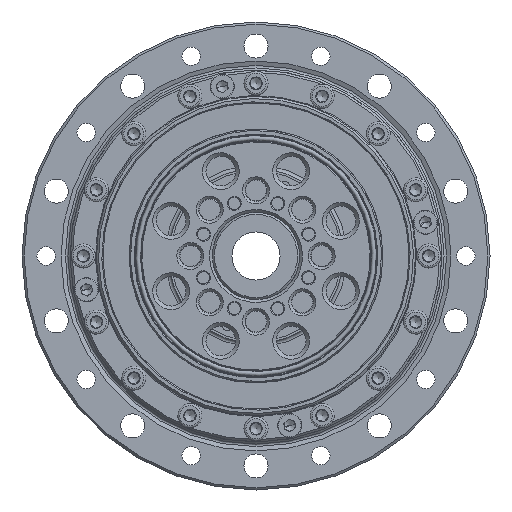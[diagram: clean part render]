
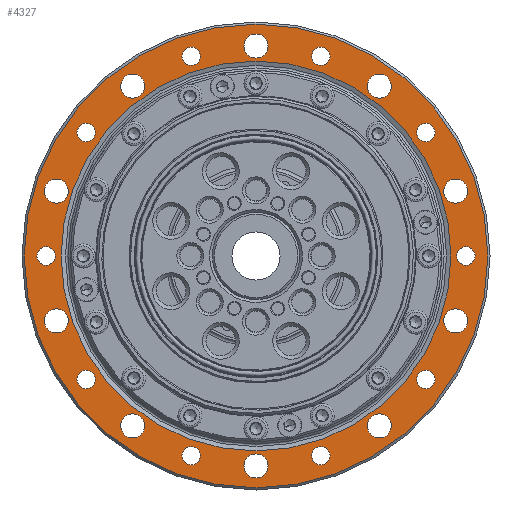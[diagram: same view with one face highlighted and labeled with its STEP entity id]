
A CAD part, left-side view. The second image highlights one B-rep face of the part: STEP entity #4327.
In plain terms, the highlighted planar face has unit normal (-1, 0, 0).
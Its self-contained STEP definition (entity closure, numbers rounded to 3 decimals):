
#3613=PLANE('',#21209);
#4327=ADVANCED_FACE('',(#6100,#6101,#6102,#6103,#6104,#6105,#6106,#6107,
#6108,#6109,#6110,#6111,#6112,#6113,#6114,#6115,#6116,#6117,#6118,#6119,
#6120,#6121),#3613,.T.);
#6100=FACE_BOUND('',#8202,.T.);
#6101=FACE_BOUND('',#8203,.T.);
#6102=FACE_BOUND('',#8204,.T.);
#6103=FACE_BOUND('',#8205,.T.);
#6104=FACE_BOUND('',#8206,.T.);
#6105=FACE_BOUND('',#8207,.T.);
#6106=FACE_BOUND('',#8208,.T.);
#6107=FACE_BOUND('',#8209,.T.);
#6108=FACE_BOUND('',#8210,.T.);
#6109=FACE_BOUND('',#8211,.T.);
#6110=FACE_BOUND('',#8212,.T.);
#6111=FACE_BOUND('',#8213,.T.);
#6112=FACE_BOUND('',#8214,.T.);
#6113=FACE_BOUND('',#8215,.T.);
#6114=FACE_BOUND('',#8216,.T.);
#6115=FACE_BOUND('',#8217,.T.);
#6116=FACE_BOUND('',#8218,.T.);
#6117=FACE_BOUND('',#8219,.T.);
#6118=FACE_BOUND('',#8220,.T.);
#6119=FACE_BOUND('',#8221,.T.);
#6120=FACE_BOUND('',#8222,.T.);
#6121=FACE_BOUND('',#8223,.T.);
#8202=EDGE_LOOP('',(#11566));
#8203=EDGE_LOOP('',(#11567));
#8204=EDGE_LOOP('',(#11568));
#8205=EDGE_LOOP('',(#11569));
#8206=EDGE_LOOP('',(#11570));
#8207=EDGE_LOOP('',(#11571));
#8208=EDGE_LOOP('',(#11572));
#8209=EDGE_LOOP('',(#11573));
#8210=EDGE_LOOP('',(#11574));
#8211=EDGE_LOOP('',(#11575));
#8212=EDGE_LOOP('',(#11576));
#8213=EDGE_LOOP('',(#11577));
#8214=EDGE_LOOP('',(#11578));
#8215=EDGE_LOOP('',(#11579));
#8216=EDGE_LOOP('',(#11580));
#8217=EDGE_LOOP('',(#11581));
#8218=EDGE_LOOP('',(#11582));
#8219=EDGE_LOOP('',(#11583));
#8220=EDGE_LOOP('',(#11584));
#8221=EDGE_LOOP('',(#11585));
#8222=EDGE_LOOP('',(#11586));
#8223=EDGE_LOOP('',(#11587));
#11566=ORIENTED_EDGE('',*,*,#17270,.T.);
#11567=ORIENTED_EDGE('',*,*,#17271,.T.);
#11568=ORIENTED_EDGE('',*,*,#17272,.T.);
#11569=ORIENTED_EDGE('',*,*,#17273,.T.);
#11570=ORIENTED_EDGE('',*,*,#17274,.T.);
#11571=ORIENTED_EDGE('',*,*,#17275,.T.);
#11572=ORIENTED_EDGE('',*,*,#17276,.T.);
#11573=ORIENTED_EDGE('',*,*,#17277,.T.);
#11574=ORIENTED_EDGE('',*,*,#17278,.T.);
#11575=ORIENTED_EDGE('',*,*,#17279,.T.);
#11576=ORIENTED_EDGE('',*,*,#17280,.T.);
#11577=ORIENTED_EDGE('',*,*,#17281,.T.);
#11578=ORIENTED_EDGE('',*,*,#17282,.T.);
#11579=ORIENTED_EDGE('',*,*,#17283,.T.);
#11580=ORIENTED_EDGE('',*,*,#17284,.T.);
#11581=ORIENTED_EDGE('',*,*,#17285,.T.);
#11582=ORIENTED_EDGE('',*,*,#17286,.T.);
#11583=ORIENTED_EDGE('',*,*,#17287,.T.);
#11584=ORIENTED_EDGE('',*,*,#17288,.T.);
#11585=ORIENTED_EDGE('',*,*,#17289,.T.);
#11586=ORIENTED_EDGE('',*,*,#17290,.T.);
#11587=ORIENTED_EDGE('',*,*,#17269,.F.);
#15329=VERTEX_POINT('',#34696);
#15330=VERTEX_POINT('',#34699);
#15331=VERTEX_POINT('',#34701);
#15332=VERTEX_POINT('',#34703);
#15333=VERTEX_POINT('',#34705);
#15334=VERTEX_POINT('',#34707);
#15335=VERTEX_POINT('',#34709);
#15336=VERTEX_POINT('',#34711);
#15337=VERTEX_POINT('',#34713);
#15338=VERTEX_POINT('',#34715);
#15339=VERTEX_POINT('',#34717);
#15340=VERTEX_POINT('',#34719);
#15341=VERTEX_POINT('',#34721);
#15342=VERTEX_POINT('',#34723);
#15343=VERTEX_POINT('',#34725);
#15344=VERTEX_POINT('',#34727);
#15345=VERTEX_POINT('',#34729);
#15346=VERTEX_POINT('',#34731);
#15347=VERTEX_POINT('',#34733);
#15348=VERTEX_POINT('',#34735);
#15349=VERTEX_POINT('',#34737);
#15350=VERTEX_POINT('',#34739);
#17269=EDGE_CURVE('',#15329,#15329,#19275,.T.);
#17270=EDGE_CURVE('',#15330,#15330,#19276,.T.);
#17271=EDGE_CURVE('',#15331,#15331,#19277,.T.);
#17272=EDGE_CURVE('',#15332,#15332,#19278,.T.);
#17273=EDGE_CURVE('',#15333,#15333,#19279,.T.);
#17274=EDGE_CURVE('',#15334,#15334,#19280,.T.);
#17275=EDGE_CURVE('',#15335,#15335,#19281,.T.);
#17276=EDGE_CURVE('',#15336,#15336,#19282,.T.);
#17277=EDGE_CURVE('',#15337,#15337,#19283,.T.);
#17278=EDGE_CURVE('',#15338,#15338,#19284,.T.);
#17279=EDGE_CURVE('',#15339,#15339,#19285,.T.);
#17280=EDGE_CURVE('',#15340,#15340,#19286,.T.);
#17281=EDGE_CURVE('',#15341,#15341,#19287,.T.);
#17282=EDGE_CURVE('',#15342,#15342,#19288,.T.);
#17283=EDGE_CURVE('',#15343,#15343,#19289,.T.);
#17284=EDGE_CURVE('',#15344,#15344,#19290,.T.);
#17285=EDGE_CURVE('',#15345,#15345,#19291,.T.);
#17286=EDGE_CURVE('',#15346,#15346,#19292,.T.);
#17287=EDGE_CURVE('',#15347,#15347,#19293,.T.);
#17288=EDGE_CURVE('',#15348,#15348,#19294,.T.);
#17289=EDGE_CURVE('',#15349,#15349,#19295,.T.);
#17290=EDGE_CURVE('',#15350,#15350,#19296,.T.);
#19275=CIRCLE('',#21186,44.561);
#19276=CIRCLE('',#21188,53.);
#19277=CIRCLE('',#21189,2.1);
#19278=CIRCLE('',#21190,2.1);
#19279=CIRCLE('',#21191,2.1);
#19280=CIRCLE('',#21192,2.1);
#19281=CIRCLE('',#21193,2.1);
#19282=CIRCLE('',#21194,2.1);
#19283=CIRCLE('',#21195,2.1);
#19284=CIRCLE('',#21196,2.1);
#19285=CIRCLE('',#21197,2.1);
#19286=CIRCLE('',#21198,2.1);
#19287=CIRCLE('',#21199,2.75);
#19288=CIRCLE('',#21200,2.75);
#19289=CIRCLE('',#21201,2.75);
#19290=CIRCLE('',#21202,2.75);
#19291=CIRCLE('',#21203,2.75);
#19292=CIRCLE('',#21204,2.75);
#19293=CIRCLE('',#21205,2.75);
#19294=CIRCLE('',#21206,2.75);
#19295=CIRCLE('',#21207,2.75);
#19296=CIRCLE('',#21208,2.75);
#21186=AXIS2_PLACEMENT_3D('',#34695,#24646,#24647);
#21188=AXIS2_PLACEMENT_3D('',#34698,#24650,#24651);
#21189=AXIS2_PLACEMENT_3D('',#34700,#24652,#24653);
#21190=AXIS2_PLACEMENT_3D('',#34702,#24654,#24655);
#21191=AXIS2_PLACEMENT_3D('',#34704,#24656,#24657);
#21192=AXIS2_PLACEMENT_3D('',#34706,#24658,#24659);
#21193=AXIS2_PLACEMENT_3D('',#34708,#24660,#24661);
#21194=AXIS2_PLACEMENT_3D('',#34710,#24662,#24663);
#21195=AXIS2_PLACEMENT_3D('',#34712,#24664,#24665);
#21196=AXIS2_PLACEMENT_3D('',#34714,#24666,#24667);
#21197=AXIS2_PLACEMENT_3D('',#34716,#24668,#24669);
#21198=AXIS2_PLACEMENT_3D('',#34718,#24670,#24671);
#21199=AXIS2_PLACEMENT_3D('',#34720,#24672,#24673);
#21200=AXIS2_PLACEMENT_3D('',#34722,#24674,#24675);
#21201=AXIS2_PLACEMENT_3D('',#34724,#24676,#24677);
#21202=AXIS2_PLACEMENT_3D('',#34726,#24678,#24679);
#21203=AXIS2_PLACEMENT_3D('',#34728,#24680,#24681);
#21204=AXIS2_PLACEMENT_3D('',#34730,#24682,#24683);
#21205=AXIS2_PLACEMENT_3D('',#34732,#24684,#24685);
#21206=AXIS2_PLACEMENT_3D('',#34734,#24686,#24687);
#21207=AXIS2_PLACEMENT_3D('',#34736,#24688,#24689);
#21208=AXIS2_PLACEMENT_3D('',#34738,#24690,#24691);
#21209=AXIS2_PLACEMENT_3D('',#34740,#24692,#24693);
#24646=DIRECTION('',(-1.,0.,0.));
#24647=DIRECTION('',(0.,0.,1.));
#24650=DIRECTION('',(-1.,0.,0.));
#24651=DIRECTION('',(0.,0.,1.));
#24652=DIRECTION('',(1.,0.,0.));
#24653=DIRECTION('',(0.,0.,-1.));
#24654=DIRECTION('',(1.,0.,0.));
#24655=DIRECTION('',(0.,0.,-1.));
#24656=DIRECTION('',(1.,0.,0.));
#24657=DIRECTION('',(0.,0.,-1.));
#24658=DIRECTION('',(1.,0.,0.));
#24659=DIRECTION('',(0.,0.,-1.));
#24660=DIRECTION('',(1.,0.,0.));
#24661=DIRECTION('',(0.,0.,-1.));
#24662=DIRECTION('',(1.,0.,0.));
#24663=DIRECTION('',(0.,0.,-1.));
#24664=DIRECTION('',(1.,0.,0.));
#24665=DIRECTION('',(0.,0.,-1.));
#24666=DIRECTION('',(1.,0.,0.));
#24667=DIRECTION('',(0.,0.,-1.));
#24668=DIRECTION('',(1.,0.,0.));
#24669=DIRECTION('',(0.,0.,-1.));
#24670=DIRECTION('',(1.,0.,0.));
#24671=DIRECTION('',(0.,0.,-1.));
#24672=DIRECTION('',(1.,0.,0.));
#24673=DIRECTION('',(0.,0.,-1.));
#24674=DIRECTION('',(1.,0.,0.));
#24675=DIRECTION('',(0.,0.,-1.));
#24676=DIRECTION('',(1.,0.,0.));
#24677=DIRECTION('',(0.,0.,-1.));
#24678=DIRECTION('',(1.,0.,0.));
#24679=DIRECTION('',(0.,0.,-1.));
#24680=DIRECTION('',(1.,0.,0.));
#24681=DIRECTION('',(0.,0.,-1.));
#24682=DIRECTION('',(1.,0.,0.));
#24683=DIRECTION('',(0.,0.,-1.));
#24684=DIRECTION('',(1.,0.,0.));
#24685=DIRECTION('',(0.,0.,-1.));
#24686=DIRECTION('',(1.,0.,0.));
#24687=DIRECTION('',(0.,0.,-1.));
#24688=DIRECTION('',(1.,0.,0.));
#24689=DIRECTION('',(0.,0.,-1.));
#24690=DIRECTION('',(1.,0.,0.));
#24691=DIRECTION('',(0.,0.,-1.));
#24692=DIRECTION('',(-1.,0.,0.));
#24693=DIRECTION('',(0.,0.,1.));
#34695=CARTESIAN_POINT('',(-10.,0.,0.));
#34696=CARTESIAN_POINT('',(-10.,0.,44.561));
#34698=CARTESIAN_POINT('',(-10.,0.,0.));
#34699=CARTESIAN_POINT('',(-10.,0.,53.));
#34700=CARTESIAN_POINT('',(-10.,14.833,45.651));
#34701=CARTESIAN_POINT('',(-10.,14.833,43.551));
#34702=CARTESIAN_POINT('',(-10.,38.833,28.214));
#34703=CARTESIAN_POINT('',(-10.,38.833,26.114));
#34704=CARTESIAN_POINT('',(-10.,48.,0.));
#34705=CARTESIAN_POINT('',(-10.,48.,-2.1));
#34706=CARTESIAN_POINT('',(-10.,38.833,-28.214));
#34707=CARTESIAN_POINT('',(-10.,38.833,-30.314));
#34708=CARTESIAN_POINT('',(-10.,14.833,-45.651));
#34709=CARTESIAN_POINT('',(-10.,14.833,-47.751));
#34710=CARTESIAN_POINT('',(-10.,-14.833,-45.651));
#34711=CARTESIAN_POINT('',(-10.,-14.833,-47.751));
#34712=CARTESIAN_POINT('',(-10.,-38.833,-28.214));
#34713=CARTESIAN_POINT('',(-10.,-38.833,-30.314));
#34714=CARTESIAN_POINT('',(-10.,-48.,0.));
#34715=CARTESIAN_POINT('',(-10.,-48.,-2.1));
#34716=CARTESIAN_POINT('',(-10.,-38.833,28.214));
#34717=CARTESIAN_POINT('',(-10.,-38.833,26.114));
#34718=CARTESIAN_POINT('',(-10.,-14.833,45.651));
#34719=CARTESIAN_POINT('',(-10.,-14.833,43.551));
#34720=CARTESIAN_POINT('',(-10.,28.214,38.833));
#34721=CARTESIAN_POINT('',(-10.,28.214,36.083));
#34722=CARTESIAN_POINT('',(-10.,45.651,14.833));
#34723=CARTESIAN_POINT('',(-10.,45.651,12.083));
#34724=CARTESIAN_POINT('',(-10.,45.651,-14.833));
#34725=CARTESIAN_POINT('',(-10.,45.651,-17.583));
#34726=CARTESIAN_POINT('',(-10.,28.214,-38.833));
#34727=CARTESIAN_POINT('',(-10.,28.214,-41.583));
#34728=CARTESIAN_POINT('',(-10.,0.,-48.));
#34729=CARTESIAN_POINT('',(-10.,0.,-50.75));
#34730=CARTESIAN_POINT('',(-10.,-28.214,-38.833));
#34731=CARTESIAN_POINT('',(-10.,-28.214,-41.583));
#34732=CARTESIAN_POINT('',(-10.,-45.651,-14.833));
#34733=CARTESIAN_POINT('',(-10.,-45.651,-17.583));
#34734=CARTESIAN_POINT('',(-10.,-45.651,14.833));
#34735=CARTESIAN_POINT('',(-10.,-45.651,12.083));
#34736=CARTESIAN_POINT('',(-10.,-28.214,38.833));
#34737=CARTESIAN_POINT('',(-10.,-28.214,36.083));
#34738=CARTESIAN_POINT('',(-10.,0.,48.));
#34739=CARTESIAN_POINT('',(-10.,0.,45.25));
#34740=CARTESIAN_POINT('',(-10.,0.,44.561));
